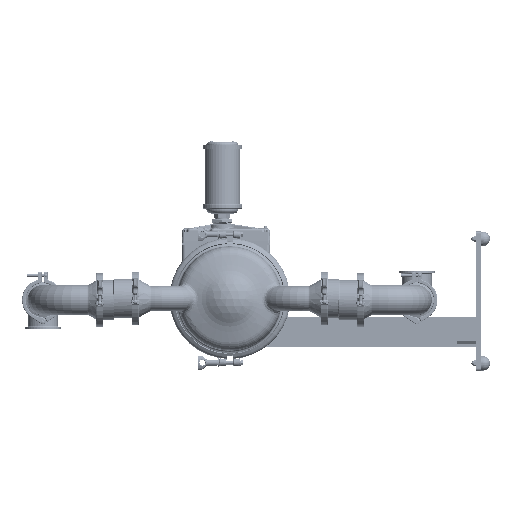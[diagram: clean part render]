
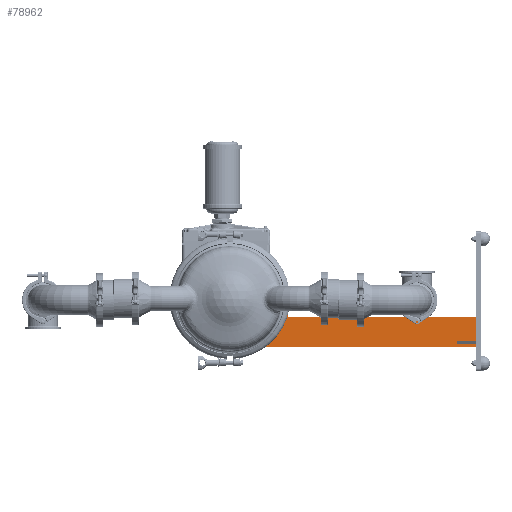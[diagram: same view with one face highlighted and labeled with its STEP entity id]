
A CAD part, left-side view. The second image highlights one B-rep face of the part: STEP entity #78962.
In plain terms, the highlighted planar face has unit normal (-1, 0, 0).
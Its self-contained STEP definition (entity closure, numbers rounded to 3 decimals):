
#8621 = LINE ( 'NONE', #137695, #279136 ) ;
#15785 = CARTESIAN_POINT ( 'NONE',  ( -1., -2.88, 1.027 ) ) ;
#16755 = ORIENTED_EDGE ( 'NONE', *, *, #363128, .T. ) ;
#20728 = ORIENTED_EDGE ( 'NONE', *, *, #249532, .F. ) ;
#22833 = EDGE_CURVE ( 'NONE', #180820, #410185, #313369, .T. ) ;
#30396 = DIRECTION ( 'NONE',  ( 0., 0., 1. ) ) ;
#35165 = DIRECTION ( 'NONE',  ( 0., -1., 0. ) ) ;
#35921 = PLANE ( 'NONE',  #523024 ) ;
#49497 = EDGE_CURVE ( 'NONE', #401769, #178389, #374955, .T. ) ;
#51857 = CARTESIAN_POINT ( 'NONE',  ( -1., -24.78, -4.288 ) ) ;
#52392 = CARTESIAN_POINT ( 'NONE',  ( -1., -4.21, -2.458 ) ) ;
#57074 = EDGE_CURVE ( 'NONE', #409660, #401769, #437235, .T. ) ;
#67685 = VECTOR ( 'NONE', #546181, 39.37 ) ;
#70794 = DIRECTION ( 'NONE',  ( 0., -1., 0. ) ) ;
#73952 = VECTOR ( 'NONE', #125184, 39.37 ) ;
#78962 = ADVANCED_FACE ( 'NONE', ( #462717 ), #35921, .T. ) ;
#85072 = ORIENTED_EDGE ( 'NONE', *, *, #153515, .T. ) ;
#88827 = LINE ( 'NONE', #304961, #399505 ) ;
#91043 = CARTESIAN_POINT ( 'NONE',  ( -1., -22.78, -4.538 ) ) ;
#91598 = DIRECTION ( 'NONE',  ( 0., 0., -1. ) ) ;
#93152 = VERTEX_POINT ( 'NONE', #297719 ) ;
#98581 = ORIENTED_EDGE ( 'NONE', *, *, #364420, .T. ) ;
#103910 = CARTESIAN_POINT ( 'NONE',  ( -1., -2.88, 1.027 ) ) ;
#108759 = ORIENTED_EDGE ( 'NONE', *, *, #49497, .F. ) ;
#114825 = VECTOR ( 'NONE', #439782, 39.37 ) ;
#119379 = LINE ( 'NONE', #419815, #174777 ) ;
#122001 = ORIENTED_EDGE ( 'NONE', *, *, #22833, .F. ) ;
#125184 = DIRECTION ( 'NONE',  ( 0., 1., 0. ) ) ;
#126075 = CARTESIAN_POINT ( 'NONE',  ( -1., -24.78, -1.898 ) ) ;
#126538 = CARTESIAN_POINT ( 'NONE',  ( -1., -22.78, -4.288 ) ) ;
#129104 = CARTESIAN_POINT ( 'NONE',  ( -1., -2.88, -1.928 ) ) ;
#129872 = ORIENTED_EDGE ( 'NONE', *, *, #133276, .F. ) ;
#133276 = EDGE_CURVE ( 'NONE', #417267, #149613, #88827, .T. ) ;
#133742 = CARTESIAN_POINT ( 'NONE',  ( -1., -5.88, -1.898 ) ) ;
#137695 = CARTESIAN_POINT ( 'NONE',  ( -1., -2.88, -4.898 ) ) ;
#142689 = DIRECTION ( 'NONE',  ( 0., 0., 1. ) ) ;
#143179 = ORIENTED_EDGE ( 'NONE', *, *, #496832, .T. ) ;
#149613 = VERTEX_POINT ( 'NONE', #402309 ) ;
#149804 = EDGE_LOOP ( 'NONE', ( #488514, #85072, #20728, #189112, #108759, #226101, #143179, #122001, #348234, #16755, #464840, #98581, #152046, #265834, #129872 ) ) ;
#152021 = EDGE_CURVE ( 'NONE', #344869, #417267, #510125, .T. ) ;
#152046 = ORIENTED_EDGE ( 'NONE', *, *, #306974, .T. ) ;
#153515 = EDGE_CURVE ( 'NONE', #344869, #528638, #314767, .T. ) ;
#167534 = CARTESIAN_POINT ( 'NONE',  ( -1., -24.78, -4.538 ) ) ;
#168634 = DIRECTION ( 'NONE',  ( 0., 0., -1. ) ) ;
#174173 = LINE ( 'NONE', #126538, #520638 ) ;
#174777 = VECTOR ( 'NONE', #35165, 39.37 ) ;
#178389 = VERTEX_POINT ( 'NONE', #51857 ) ;
#180820 = VERTEX_POINT ( 'NONE', #103910 ) ;
#189112 = ORIENTED_EDGE ( 'NONE', *, *, #377161, .F. ) ;
#197063 = VECTOR ( 'NONE', #518512, 39.37 ) ;
#226101 = ORIENTED_EDGE ( 'NONE', *, *, #57074, .F. ) ;
#245659 = CARTESIAN_POINT ( 'NONE',  ( -1., -24.78, -4.898 ) ) ;
#249132 = CARTESIAN_POINT ( 'NONE',  ( -1., -5.88, 1.027 ) ) ;
#249299 = DIRECTION ( 'NONE',  ( -1., 0., 0. ) ) ;
#249532 = EDGE_CURVE ( 'NONE', #525117, #528638, #174173, .T. ) ;
#250784 = VECTOR ( 'NONE', #515968, 39.37 ) ;
#262277 = EDGE_CURVE ( 'NONE', #412054, #180820, #263745, .T. ) ;
#263745 = LINE ( 'NONE', #129104, #454878 ) ;
#265834 = ORIENTED_EDGE ( 'NONE', *, *, #277600, .F. ) ;
#277600 = EDGE_CURVE ( 'NONE', #149613, #392533, #8621, .T. ) ;
#279136 = VECTOR ( 'NONE', #440922, 39.37 ) ;
#279616 = CARTESIAN_POINT ( 'NONE',  ( -1., -24.78, -1.898 ) ) ;
#297719 = CARTESIAN_POINT ( 'NONE',  ( -1., -4.16, -1.928 ) ) ;
#304961 = CARTESIAN_POINT ( 'NONE',  ( -1., -24.78, -4.898 ) ) ;
#306974 = EDGE_CURVE ( 'NONE', #336628, #392533, #484662, .T. ) ;
#307380 = CARTESIAN_POINT ( 'NONE',  ( -1., -4.21, -1.928 ) ) ;
#312028 = DIRECTION ( 'NONE',  ( 0., 1., 0. ) ) ;
#313369 = LINE ( 'NONE', #15785, #197063 ) ;
#314767 = LINE ( 'NONE', #519904, #442459 ) ;
#326235 = CARTESIAN_POINT ( 'NONE',  ( -1., -4.16, -1.928 ) ) ;
#336628 = VERTEX_POINT ( 'NONE', #513182 ) ;
#339695 = DIRECTION ( 'NONE',  ( 0., 0., 1. ) ) ;
#344637 = CARTESIAN_POINT ( 'NONE',  ( -1., -5.88, -1.898 ) ) ;
#344869 = VERTEX_POINT ( 'NONE', #466796 ) ;
#348234 = ORIENTED_EDGE ( 'NONE', *, *, #262277, .F. ) ;
#348492 = CARTESIAN_POINT ( 'NONE',  ( -1., -22.78, -4.288 ) ) ;
#349488 = LINE ( 'NONE', #307380, #416444 ) ;
#357371 = LINE ( 'NONE', #326235, #375227 ) ;
#363128 = EDGE_CURVE ( 'NONE', #412054, #93152, #119379, .T. ) ;
#364420 = EDGE_CURVE ( 'NONE', #408364, #336628, #349488, .T. ) ;
#368685 = CARTESIAN_POINT ( 'NONE',  ( -1., -4.21, -1.928 ) ) ;
#374955 = LINE ( 'NONE', #279616, #67685 ) ;
#375227 = VECTOR ( 'NONE', #70794, 39.37 ) ;
#377161 = EDGE_CURVE ( 'NONE', #178389, #525117, #509873, .T. ) ;
#392533 = VERTEX_POINT ( 'NONE', #515768 ) ;
#399505 = VECTOR ( 'NONE', #515624, 39.37 ) ;
#401769 = VERTEX_POINT ( 'NONE', #126075 ) ;
#402309 = CARTESIAN_POINT ( 'NONE',  ( -1., -2.88, -4.898 ) ) ;
#408364 = VERTEX_POINT ( 'NONE', #368685 ) ;
#409660 = VERTEX_POINT ( 'NONE', #133742 ) ;
#410185 = VERTEX_POINT ( 'NONE', #249132 ) ;
#412054 = VERTEX_POINT ( 'NONE', #467593 ) ;
#414807 = VECTOR ( 'NONE', #91598, 39.37 ) ;
#416444 = VECTOR ( 'NONE', #478657, 39.37 ) ;
#417267 = VERTEX_POINT ( 'NONE', #245659 ) ;
#419815 = CARTESIAN_POINT ( 'NONE',  ( -1., -2.88, -1.928 ) ) ;
#437235 = LINE ( 'NONE', #344637, #250784 ) ;
#439782 = DIRECTION ( 'NONE',  ( 0., 1., 0. ) ) ;
#440922 = DIRECTION ( 'NONE',  ( 0., 0., 1. ) ) ;
#442459 = VECTOR ( 'NONE', #312028, 39.37 ) ;
#451795 = CARTESIAN_POINT ( 'NONE',  ( -1., -24.78, -4.288 ) ) ;
#454878 = VECTOR ( 'NONE', #339695, 39.37 ) ;
#462717 = FACE_OUTER_BOUND ( 'NONE', #149804, .T. ) ;
#464840 = ORIENTED_EDGE ( 'NONE', *, *, #531873, .T. ) ;
#466796 = CARTESIAN_POINT ( 'NONE',  ( -1., -24.78, -4.538 ) ) ;
#467593 = CARTESIAN_POINT ( 'NONE',  ( -1., -2.88, -1.928 ) ) ;
#478657 = DIRECTION ( 'NONE',  ( 0., 0., -1. ) ) ;
#481698 = VECTOR ( 'NONE', #142689, 39.37 ) ;
#484662 = LINE ( 'NONE', #52392, #114825 ) ;
#488514 = ORIENTED_EDGE ( 'NONE', *, *, #152021, .F. ) ;
#496293 = LINE ( 'NONE', #527373, #481698 ) ;
#496832 = EDGE_CURVE ( 'NONE', #409660, #410185, #496293, .T. ) ;
#502060 = CARTESIAN_POINT ( 'NONE',  ( -1., -5.88, -1.898 ) ) ;
#509873 = LINE ( 'NONE', #451795, #73952 ) ;
#510125 = LINE ( 'NONE', #167534, #414807 ) ;
#513182 = CARTESIAN_POINT ( 'NONE',  ( -1., -4.21, -2.458 ) ) ;
#515624 = DIRECTION ( 'NONE',  ( 0., 1., 0. ) ) ;
#515768 = CARTESIAN_POINT ( 'NONE',  ( -1., -2.88, -2.458 ) ) ;
#515968 = DIRECTION ( 'NONE',  ( 0., -1., 0. ) ) ;
#518512 = DIRECTION ( 'NONE',  ( 0., -1., 0. ) ) ;
#519904 = CARTESIAN_POINT ( 'NONE',  ( -1., -24.78, -4.538 ) ) ;
#520638 = VECTOR ( 'NONE', #168634, 39.37 ) ;
#523024 = AXIS2_PLACEMENT_3D ( 'NONE', #502060, #249299, #30396 ) ;
#525117 = VERTEX_POINT ( 'NONE', #348492 ) ;
#527373 = CARTESIAN_POINT ( 'NONE',  ( -1., -5.88, -1.898 ) ) ;
#528638 = VERTEX_POINT ( 'NONE', #91043 ) ;
#531873 = EDGE_CURVE ( 'NONE', #93152, #408364, #357371, .T. ) ;
#546181 = DIRECTION ( 'NONE',  ( 0., 0., -1. ) ) ;
